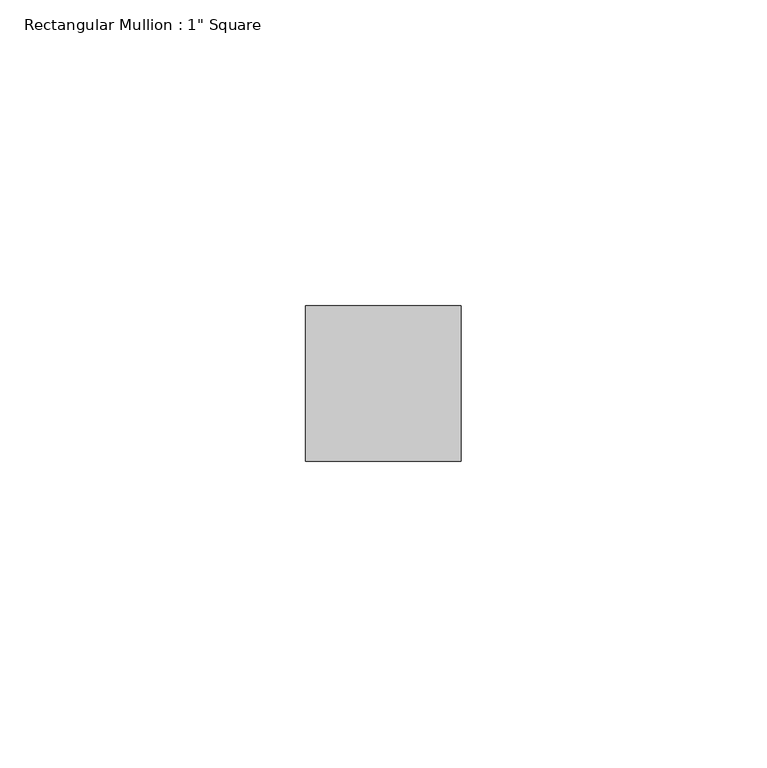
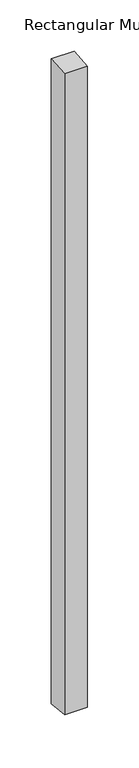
"""IFC4 building model written with IfcOpenShell, lengths in millimetres: member geometry."""

from ifc_helpers import new_model, si_unit, frame, origin, place, context, project, spatial, polyline, outline, extrude, source, transform, mapped, element, save


def member_7f7bd10d(model_context):
    return source(origin(), model_context, "Body", "SweptSolid", [
        extrude(outline(polyline([(-12.7, -1.0620274), (12.7, 1.0620274), (12.7, -763.0620274), (-12.7, -760.9379726), (-12.7, -1.0620274)])), frame((-12.7, 0.0, 0.0), z_axis=(1.0, 0.0, 0.0), x_axis=(0.0, 1.0, 0.0)), (0.0, 0.0, 1.0), 25.4),
    ])


if __name__ == "__main__":
    model = new_model("IFC4")
    model_context = context("Model", 3, world=origin())
    ifc_project = project(units=[si_unit("LENGTHUNIT", "METRE", prefix="MILLI")], contexts=[model_context])
    site = spatial("IfcSite", under=ifc_project)
    building = spatial("IfcBuilding", under=site)
    placement = place(None, origin())
    member_shape = member_7f7bd10d(model_context)
    element("IfcMember", 1, ObjectType="Rectangular Mullion : 1\" Square", at=placement, inside=building, context=model_context, shape_type="MappedRepresentation", body=[
        mapped(member_shape, transform((0.0, 0.0, 0.0), x_axis=(1.0, 0.0, 0.0), y_axis=(0.0, 1.0, 0.0), z_axis=(0.0, 0.0, 1.0))),
    ])
    save(model, "model.ifc")
